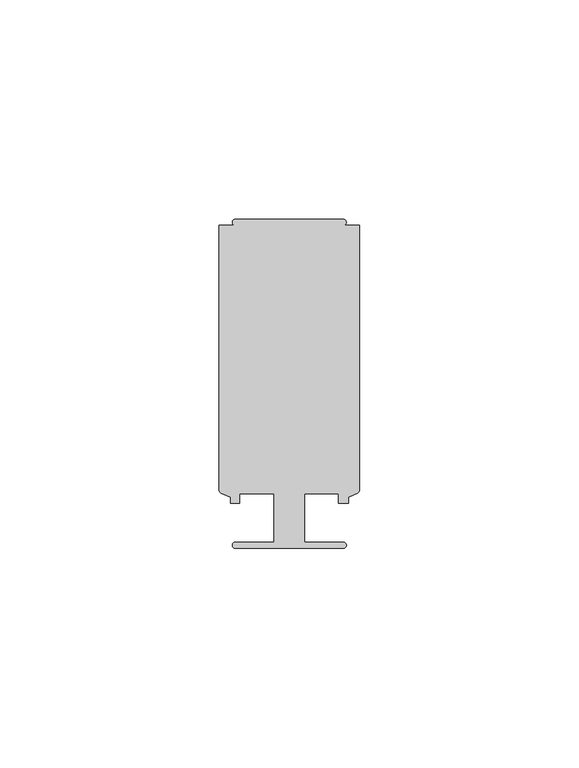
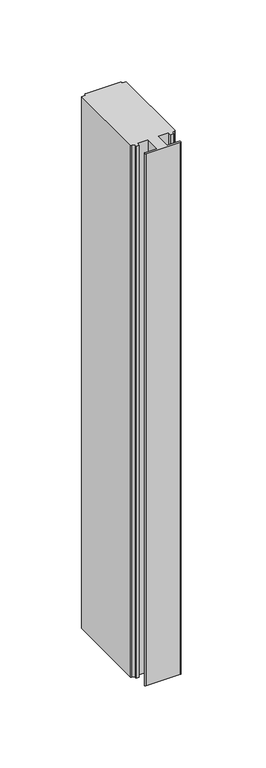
"""IFC4 building model written with IfcOpenShell, lengths in millimetres: member geometry, Прямоугольный импост : 2-AMG-1-Профиль 26Х75 Средний."""

from ifc_helpers import new_model, si_unit, point, frame, frame_2d, origin, place, context, project, spatial, polyline, circle_curve, trimmed, segment, composite_curve, outline, extrude, source, transform, mapped, element, save


def member_43a0785c(model_context):
    return source(origin(), model_context, "Body", "SweptSolid", [
        extrude(outline(composite_curve([segment(polyline([(12.2976562, -37.5), (-12.3023438, -37.5)]), True, "CONTINUOUS"), segment(trimmed(circle_curve(frame_2d((-12.3023438, -36.8)), 0.7), [point((-12.3023438, -37.5))], [point((-12.3023438, -36.1))], False, "CARTESIAN"), True, "CONTINUOUS"), segment(polyline([(-12.3023438, -36.1), (-3.5023438, -36.1), (-3.5023438, -25.0), (-11.2993767, -25.0), (-11.2993767, -27.25), (-13.4493278, -27.25), (-13.4493278, -25.836597), (-15.5219415, -24.9333875)]), True, "CONTINUOUS"), segment(trimmed(circle_curve(frame_2d((-15.2023438, -24.2)), 0.8), [point((-15.5219415, -24.9333875))], [point((-16.0023438, -24.2))], False, "CARTESIAN"), True, "CONTINUOUS"), segment(polyline([(-16.0023438, -24.2), (-16.0023438, 36.1), (-12.3004766, 36.1)]), True, "CONTINUOUS"), segment(trimmed(circle_curve(frame_2d((-12.3004766, 36.8)), 0.7), [point((-12.3004766, 36.1))], [point((-12.3004766, 37.5))], False, "CARTESIAN"), True, "CONTINUOUS"), segment(polyline([(-12.3004766, 37.5), (12.295789, 37.5)]), True, "CONTINUOUS"), segment(trimmed(circle_curve(frame_2d((12.295789, 36.8)), 0.7), [point((12.295789, 37.5))], [point((12.295789, 36.1))], False, "CARTESIAN"), True, "CONTINUOUS"), segment(polyline([(12.295789, 36.1), (15.9976562, 36.1), (15.9976562, -24.2)]), True, "CONTINUOUS"), segment(trimmed(circle_curve(frame_2d((15.1976562, -24.2)), 0.8), [point((15.9976562, -24.2))], [point((15.5172539, -24.9333875))], False, "CARTESIAN"), True, "CONTINUOUS"), segment(polyline([(15.5172539, -24.9333875), (13.4446403, -25.836597), (13.4446403, -27.25), (11.2193767, -27.25), (11.2193767, -25.0), (3.4976562, -25.0), (3.4976562, -36.1), (12.2976562, -36.1)]), True, "CONTINUOUS"), segment(trimmed(circle_curve(frame_2d((12.2976562, -36.8)), 0.7), [point((12.2976562, -36.1))], [point((12.2976562, -37.5))], False, "CARTESIAN"), True, "CONTINUOUS")], self_intersect=False)), frame((0.0, 0.0, -402.8872577), z_axis=(0.0, 0.0, 1.0), x_axis=(1.0, 0.0, 0.0)), (0.0, 0.0, 1.0), 402.8872577),
    ])


if __name__ == "__main__":
    model = new_model("IFC4")
    model_context = context("Model", 3, world=origin())
    ifc_project = project(units=[si_unit("LENGTHUNIT", "METRE", prefix="MILLI")], contexts=[model_context])
    site = spatial("IfcSite", under=ifc_project)
    building = spatial("IfcBuilding", under=site)
    placement = place(None, origin())
    member_shape = member_43a0785c(model_context)
    element("IfcMember", 1, ObjectType="Прямоугольный импост : 2-AMG-1-Профиль 26Х75 Средний", at=placement, inside=building, context=model_context, shape_type="MappedRepresentation", body=[
        mapped(member_shape, transform((0.0, 0.0, 0.0), x_axis=(1.0, 0.0, 0.0), y_axis=(0.0, 1.0, 0.0), z_axis=(0.0, 0.0, 1.0))),
    ])
    save(model, "model.ifc")
